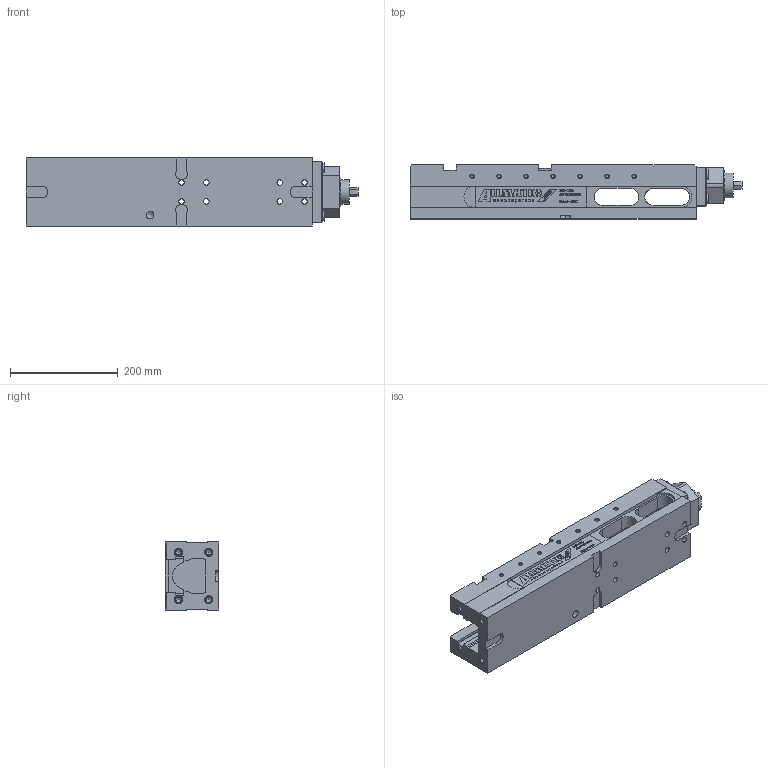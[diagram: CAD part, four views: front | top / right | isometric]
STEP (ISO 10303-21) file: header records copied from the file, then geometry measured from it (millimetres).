
FILE_DESCRIPTION (( 'STEP AP214' ), '1' );
FILE_NAME ('6921918010055.STEP', '2018-01-11T10:47:27', ( 'user' ), ( 'Hewlett-Packard Company' ), 'SwSTEP 2.0', 'SolidWorks 2016', '' );
FILE_SCHEMA (( 'AUTOMOTIVE_DESIGN' ));
Length unit declared in the file: millimetre
Products named in the file (1): 6921918010055
Bounding box: 615 x 100 x 126 mm (x, y, z)
Volume: 4371146.7 mm3; surface area: 476512.2 mm2
Topology: 1 solids, 1 shells, 1252 faces, 3433 edges, 2256 vertices
Faces by surface type: plane 853, bspline 178, cylinder 144, cone 77
Full cylindrical faces by diameter (mm): 6.8 x18, 10.2 x36, 12.1 x4, 14 x1, 18 x2, 45.3 x1, 55 x1
Entity records: 60712 total; most frequent: CARTESIAN_POINT 19520, ORIENTED_EDGE 6502, DIRECTION 5281, EDGE_CURVE 3251, LINE 2527, VECTOR 2527, VERTEX_POINT 2210, EDGE_LOOP 1521
